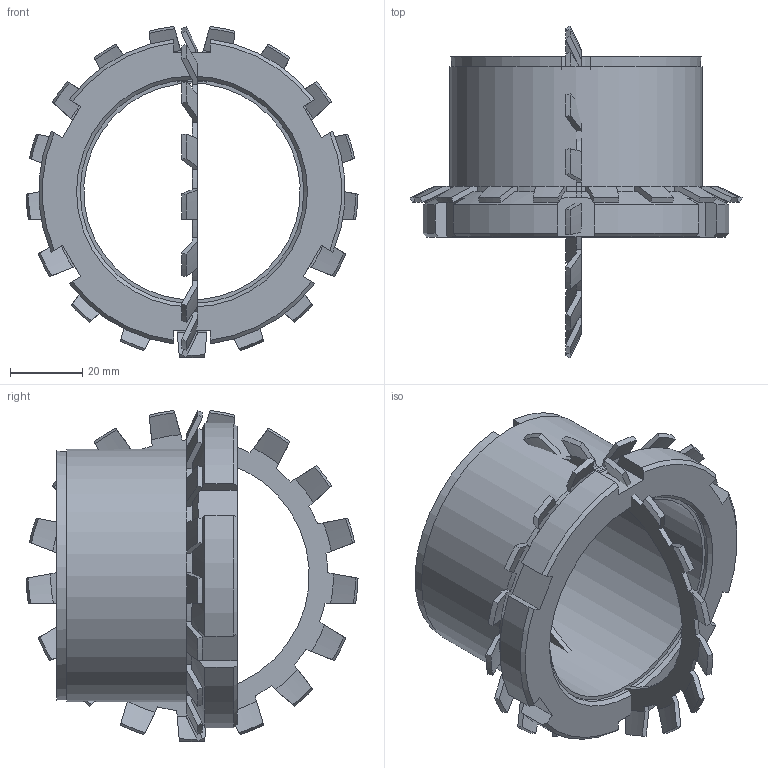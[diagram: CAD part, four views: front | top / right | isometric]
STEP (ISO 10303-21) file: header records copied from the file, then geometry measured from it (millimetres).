
FILE_DESCRIPTION( ( 'Unknown' ), '1' );
FILE_NAME( 'C:/Dokumente und Einstellungen/Sven/Desktop/homepage/cad - homepage/KBS55/KBS 55 - 60 x 70.stp', 'Unknown', ( 'Unknown' ), ( 'Unknown' ), 'XStep 1.0', 'Unknown', ' ' );
FILE_SCHEMA( ( 'automotive_design' ) );
Length unit declared in the file: millimetre
Products named in the file (3): Assem1; KBS 55 - 60 x 70; 08570134_locking_plate_din_5406_mb_13_2_14a
Bounding box: 91.99 x 91.99 x 91.71 mm (x, y, z)
Volume: 139740.8 mm3; surface area: 63385 mm2
Topology: 4 solids, 4 shells, 306 faces, 884 edges, 588 vertices
Faces by surface type: plane 130, cone 122, cylinder 54
Full cylindrical faces by diameter (mm): 62 x2, 70 x2
Entity records: 5476 total; most frequent: CARTESIAN_POINT 1152, ORIENTED_EDGE 874, DIRECTION 816, EDGE_CURVE 437, AXIS2_PLACEMENT_3D 323, VERTEX_POINT 293, LINE 170, VECTOR 170
